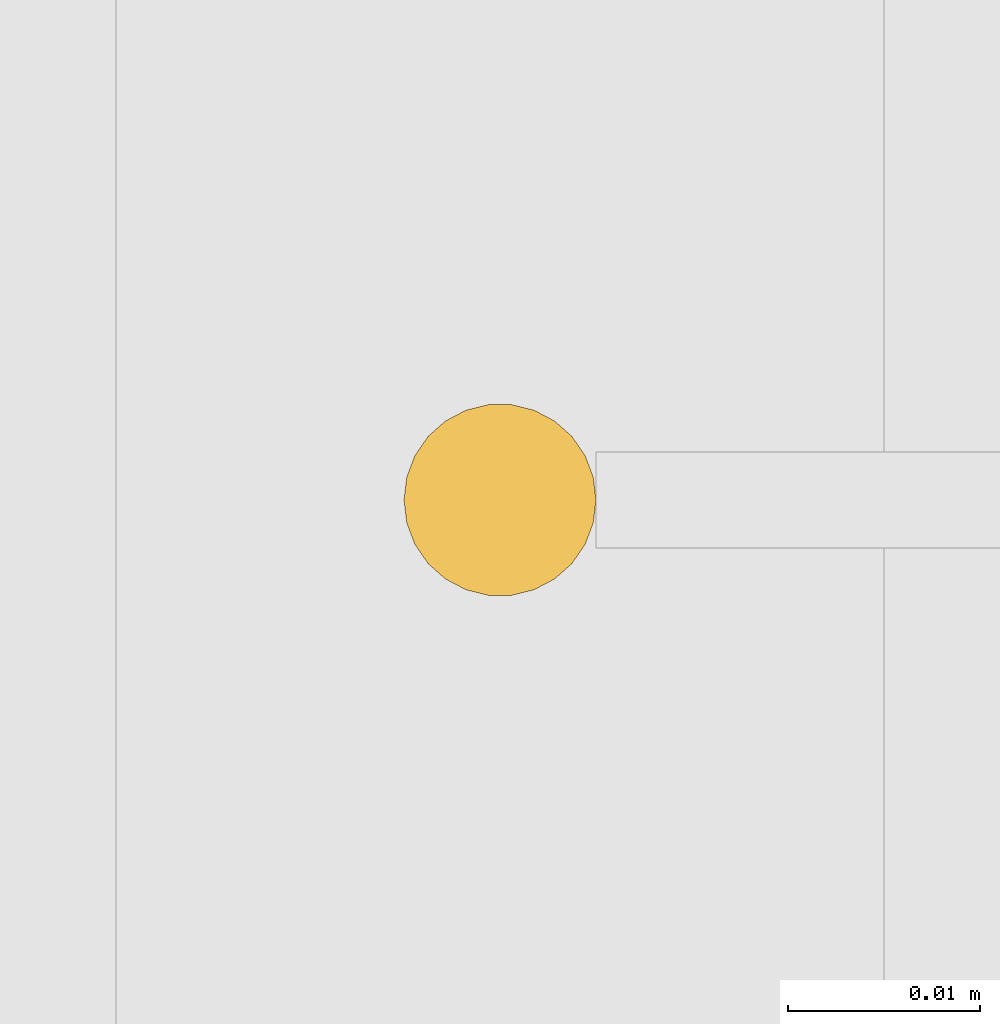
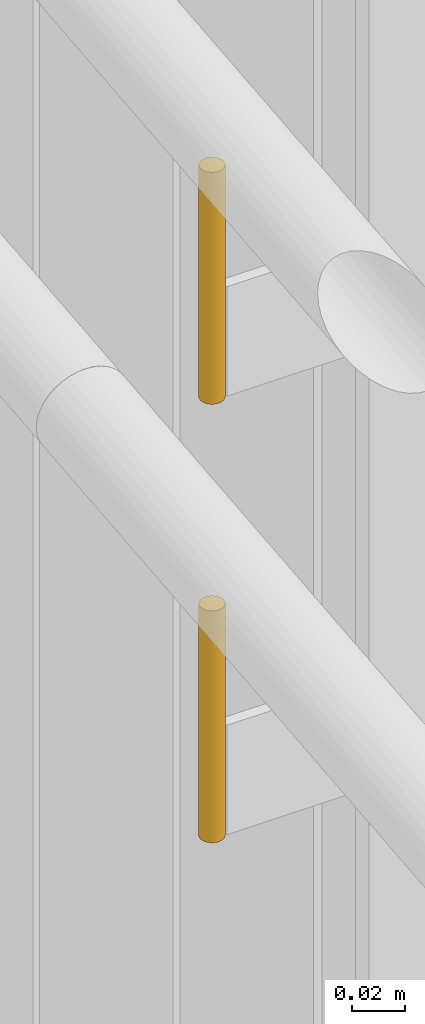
# One storey, part 160 of 418: 2 railings.
"""IFC2X3 building model written with IfcOpenShell, lengths in millimetres."""

import ifcopenshell
import ifcopenshell.guid

model = None  # the IFC model being written
_history = None  # IfcOwnerHistory: only IFC2X3 demands one
_inside = {}  # id of a spatial element -> (the spatial element, [elements in it])
_under = {}  # id of a project, library or spatial element -> (it, [spatial elements below it])
_declared = {}  # id of a project -> (the project, [libraries it declares])
_typed = {}  # id of a type object -> (the type object, [elements of that type])
_made_of = {}  # id of a material, layer set ... -> (it, [elements and type objects made of it])


def new_model(schema):
    """Start an empty IFC model of exactly this schema.

    Asked for "IFC4X3", IfcOpenShell would pick the latest addendum, in which some entities
    have other attributes; the version numbers below select the first issue.
    IFC2X3 requires an IfcOwnerHistory on every rooted entity: one is made here for all.
    """
    global model, _history
    if schema == "IFC4X3":
        model = ifcopenshell.file(schema_version=(4, 3, 0, 0))
    else:
        model = ifcopenshell.file(schema=schema)
    _inside.clear()
    _under.clear()
    _declared.clear()
    _typed.clear()
    _made_of.clear()
    _history = None
    if model.schema == "IFC2X3":
        org = make("IfcOrganization", Name="unknown")
        user = make(
            "IfcPersonAndOrganization",
            ThePerson=make("IfcPerson", FamilyName="unknown"),
            TheOrganization=org,
        )
        app = make(
            "IfcApplication",
            ApplicationDeveloper=org,
            Version="unknown",
            ApplicationFullName="unknown",
            ApplicationIdentifier="unknown",
        )
        _history = make(
            "IfcOwnerHistory",
            OwningUser=user,
            OwningApplication=app,
            ChangeAction="ADDED",
            CreationDate=0,
        )
    return model


def make(cls, **values):
    """One entity of the class cls with the attributes given. An attribute that is None is left unset."""
    return model.create_entity(
        cls, **{name: value for name, value in values.items() if value is not None}
    )


def entity(cls, *values):
    """Any entity or typed value of the class cls, its attributes in the order of the schema. None: left unset."""
    e = model.create_entity(cls)
    for i, value in enumerate(values):
        if value is not None:
            e[i] = value
    return e


def rooted(cls, **values):
    """An entity with a GlobalId (a new one), such as an element, a storey or a relation."""
    return make(cls, GlobalId=ifcopenshell.guid.new(), OwnerHistory=_history, **values)


def si_unit(unit_type, name, prefix=None):
    """IfcSIUnit, for example si_unit("LENGTHUNIT", "METRE", prefix="MILLI")."""
    return make("IfcSIUnit", UnitType=unit_type, Prefix=prefix, Name=name)


def converted_unit(unit_type, name, factor, base, dimensions=None, offset=None):
    """IfcConversionBasedUnit, such as the inch: factor (a typed value) times the base unit."""
    return make(
        "IfcConversionBasedUnit"
        if offset is None
        else "IfcConversionBasedUnitWithOffset",
        ConversionOffset=offset,
        Dimensions=None
        if dimensions is None
        else entity("IfcDimensionalExponents", *dimensions),
        UnitType=unit_type,
        Name=name,
        ConversionFactor=make(
            "IfcMeasureWithUnit", ValueComponent=factor, UnitComponent=base
        ),
    )


def derived_unit(unit_type, elements):
    """IfcDerivedUnit: a product of units, each with its exponent."""
    return make(
        "IfcDerivedUnit",
        Elements=[
            make("IfcDerivedUnitElement", Unit=unit, Exponent=power)
            for unit, power in elements
        ],
        UnitType=unit_type,
    )


def money_unit(currency):
    """IfcMonetaryUnit."""
    return make("IfcMonetaryUnit", Currency=currency)


def assignment(units):
    """IfcUnitAssignment: the units of a project."""
    return None if units is None else make("IfcUnitAssignment", Units=units)


def point(xyz):
    """IfcCartesianPoint."""
    return None if xyz is None else make("IfcCartesianPoint", Coordinates=xyz)


def direction(xyz):
    """IfcDirection."""
    return None if xyz is None else make("IfcDirection", DirectionRatios=xyz)


def frame(location, z_axis=None, x_axis=None):
    """IfcAxis2Placement3D, a coordinate frame: its origin and axes. An axis left out is left unset."""
    return make(
        "IfcAxis2Placement3D",
        Location=point(location),
        Axis=direction(z_axis),
        RefDirection=direction(x_axis),
    )


def frame_2d(location, x_axis=None):
    """IfcAxis2Placement2D, a coordinate frame in the plane: its origin and x axis."""
    return make(
        "IfcAxis2Placement2D", Location=point(location), RefDirection=direction(x_axis)
    )


def origin_with_axes():
    """The frame at (0, 0, 0) with the z axis (0, 0, 1) and the x axis (1, 0, 0) written out."""
    return frame((0.0, 0.0, 0.0), z_axis=(0.0, 0.0, 1.0), x_axis=(1.0, 0.0, 0.0))


def origin_2d_with_axis():
    """The frame at (0, 0) in the plane with the x axis (1, 0) written out."""
    return frame_2d((0.0, 0.0), x_axis=(1.0, 0.0))


def place(relative_to, where):
    """IfcLocalPlacement: puts the frame where relative to a parent placement (None: the world)."""
    return make(
        "IfcLocalPlacement", PlacementRelTo=relative_to, RelativePlacement=where
    )


def context(
    kind, dimensions, precision=None, world=None, true_north=None, identifier=None
):
    """IfcGeometricRepresentationContext, for example the 3D "Model" context."""
    return make(
        "IfcGeometricRepresentationContext",
        ContextIdentifier=identifier,
        ContextType=kind,
        CoordinateSpaceDimension=dimensions,
        Precision=precision,
        WorldCoordinateSystem=world,
        TrueNorth=true_north,
    )


def subcontext(parent, identifier, kind, view, scale=None):
    """IfcGeometricRepresentationSubContext, for example "Body" below "Model"."""
    return make(
        "IfcGeometricRepresentationSubContext",
        ContextIdentifier=identifier,
        ContextType=kind,
        ParentContext=parent,
        TargetScale=scale,
        TargetView=view,
    )


def project(units=None, contexts=None):
    """IfcProject with its units and contexts."""
    return rooted(
        "IfcProject",
        Name="project",
        RepresentationContexts=contexts,
        UnitsInContext=assignment(units),
    )


def spatial(cls, under=None, at=None, **own):
    """A site, building, storey or space (cls), placed at a placement, below another one or the project."""
    s = rooted(cls, ObjectPlacement=at, **own)
    if under is not None:
        _under.setdefault(under.id(), (under, []))[1].append(s)
    return s


def profile(cls, at=None, kind="AREA", **sizes):
    """A parametric profile (cls). Its sizes go by their IFC names, for example OverallWidth=200.0."""
    return make(cls, ProfileType=kind, Position=at, **sizes)


def circle(**sizes):
    """IfcCircleProfileDef."""
    return profile("IfcCircleProfileDef", **sizes)


def extrude(swept, where, along, depth):
    """IfcExtrudedAreaSolid: the profile swept, set in the frame where, extruded along a direction by depth."""
    return make(
        "IfcExtrudedAreaSolid",
        SweptArea=swept,
        Position=where,
        ExtrudedDirection=direction(along),
        Depth=depth,
    )


def shape(context_of_items, identifier, shape_type, items):
    """IfcShapeRepresentation: the items that make up one representation, for example the "Body"."""
    return make(
        "IfcShapeRepresentation",
        ContextOfItems=context_of_items,
        RepresentationIdentifier=identifier,
        RepresentationType=shape_type,
        Items=items,
    )


def material(Name=None, Category=None):
    """IfcMaterial."""
    return make("IfcMaterial", Name=Name, Category=Category)


def made_of(thing, what):
    """Note that an element or type object is made of a material, layer set ...; save() writes the relation."""
    if what is not None:
        _made_of.setdefault(what.id(), (what, []))[1].append(thing)
    return thing


def type_object(cls, material=None, **own):
    """A type object (cls), such as IfcWallType, which elements share."""
    return made_of(rooted(cls, **own), material)


def element(
    cls,
    number,
    at=None,
    inside=None,
    cuts=None,
    type_object=None,
    material=None,
    context=None,
    identifier="Body",
    shape_type=None,
    held_by="IfcProductDefinitionShape",
    body=None,
    shapes=None,
    **own,
):
    """One element of the class cls, such as IfcWall. Its Tag is "e" and its number.

    at: its placement. inside: the storey or other place that contains it. cuts: it is an
    opening in that element (IfcRelVoidsElement). A single representation is given by context,
    identifier, shape_type and body (its items); several are given by shapes. held_by: the class
    of the entity that holds the representations. save() writes the other relations.
    """
    e = rooted(cls, Tag="e%d" % number, ObjectPlacement=at, **own)
    if body is not None:
        shapes = [shape(context, identifier, shape_type, body)]
    if shapes is not None:
        e.Representation = make(held_by, Representations=shapes)
    if inside is not None:
        _inside.setdefault(inside.id(), (inside, []))[1].append(e)
    if cuts is not None:
        rooted(
            "IfcRelVoidsElement", RelatingBuildingElement=cuts, RelatedOpeningElement=e
        )
    if type_object is not None:
        _typed.setdefault(type_object.id(), (type_object, []))[1].append(e)
    return made_of(e, material)


def aggregate(whole, parts):
    """IfcRelAggregates: a whole, such as a stair, and the parts it consists of."""
    return rooted("IfcRelAggregates", RelatingObject=whole, RelatedObjects=parts)


def save(model, path):
    """Write the relations noted so far, then the file.

    IfcRelAggregates (storeys below a building ...), IfcRelContainedInSpatialStructure (elements
    in a storey), IfcRelDefinesByType, IfcRelAssociatesMaterial and IfcRelDeclares: one each for
    every whole, place, type object, material and project.
    """
    for whole, parts in _under.values():
        aggregate(whole, parts)
    for where, things in _inside.values():
        rooted(
            "IfcRelContainedInSpatialStructure",
            RelatedElements=things,
            RelatingStructure=where,
        )
    for kind, things in _typed.values():
        rooted("IfcRelDefinesByType", RelatedObjects=things, RelatingType=kind)
    for what, things in _made_of.values():
        rooted("IfcRelAssociatesMaterial", RelatedObjects=things, RelatingMaterial=what)
    for by, libraries in _declared.values():
        rooted("IfcRelDeclares", RelatingContext=by, RelatedDefinitions=libraries)
    model.write(path)


model = new_model("IFC2X3")

# Units and contexts
model_context = context("Model", 3, precision=0.01, world=origin_with_axes(), true_north=direction((0.0, 1.0)))
body_context = subcontext(model_context, "Body", "Model", "MODEL_VIEW")
ifc_project = project(units=[si_unit("LENGTHUNIT", "METRE", prefix="MILLI"), si_unit("AREAUNIT", "SQUARE_METRE"), si_unit("VOLUMEUNIT", "CUBIC_METRE"), converted_unit("PLANEANGLEUNIT", "DEGREE", entity("IfcPlaneAngleMeasure", 0.0174532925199), si_unit("PLANEANGLEUNIT", "RADIAN"), dimensions=[0, 0, 0, 0, 0, 0, 0]), si_unit("SOLIDANGLEUNIT", "STERADIAN"), money_unit("EUR"), converted_unit("TIMEUNIT", "Year", entity("IfcTimeMeasure", 31556926.0), si_unit("TIMEUNIT", "SECOND"), dimensions=[0, 0, 1, 0, 0, 0, 0]), si_unit("MASSUNIT", "GRAM", prefix="KILO"), si_unit("THERMODYNAMICTEMPERATUREUNIT", "DEGREE_CELSIUS"), si_unit("LUMINOUSINTENSITYUNIT", "LUMEN"), si_unit("ENERGYUNIT", "JOULE", prefix="MEGA"), derived_unit("THERMALCONDUCTANCEUNIT", [(si_unit("POWERUNIT", "WATT"), 1), (si_unit("LENGTHUNIT", "METRE"), -1), (si_unit("THERMODYNAMICTEMPERATUREUNIT", "KELVIN"), -1)]), derived_unit("SPECIFICHEATCAPACITYUNIT", [(si_unit("ENERGYUNIT", "JOULE"), 1), (si_unit("MASSUNIT", "GRAM", prefix="KILO"), -1), (si_unit("THERMODYNAMICTEMPERATUREUNIT", "KELVIN"), -1)]), derived_unit("MASSDENSITYUNIT", [(si_unit("MASSUNIT", "GRAM", prefix="KILO"), 1), (si_unit("VOLUMEUNIT", "CUBIC_METRE"), -1)])], contexts=[model_context])

# Site, building, storey
site_placement = place(None, origin_with_axes())
site = spatial("IfcSite", under=ifc_project, at=site_placement, Name="Paldiski mnt 245/1, Tallinn, Harjumaa", CompositionType="COMPLEX")
building_placement = place(site_placement, origin_with_axes())
building = spatial("IfcBuilding", under=site, at=building_placement, Name="RKAS Hoone üldnimetus (kasutust iseloomustav) -> IFC Project Manager -> SOLIBRI", CompositionType="ELEMENT")
storey_placement = place(building_placement, origin_with_axes())
storey = spatial("IfcBuildingStorey", under=building, at=storey_placement, Name="Esimene korrus", CompositionType="ELEMENT", Elevation=0.0)

# Railings
ifc_material = material(Name="ET-07_Teras - Roostevaba")
railing_type = type_object("IfcRailingType", Name="ET-07_Teras - Roostevaba D10", PredefinedType="NOTDEFINED")
for number, where, z_axis, x_axis in (
    (1, (-38905.9992191, -15325.0843011, 524.378591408), (0.0, 0.0, 1.0), (-1.0, 0.0, 0.0)),
    (2, (-38905.9992191, -15325.0843011, 724.80049127), (0.0, 0.0, 1.0), (-1.0, 0.0, 0.0)),
):
    element("IfcRailing", number, at=place(storey_placement, frame(where, z_axis=z_axis, x_axis=x_axis)), inside=storey, type_object=railing_type, material=ifc_material, Name="Trepipiire", PredefinedType="NOTDEFINED", context=body_context, shape_type="SweptSolid", body=[
        extrude(circle(Radius=5.0, at=origin_2d_with_axis()), origin_with_axes(), (0.0, 0.0, 1.0), 106.0),
    ])

save(model, "model.ifc")
